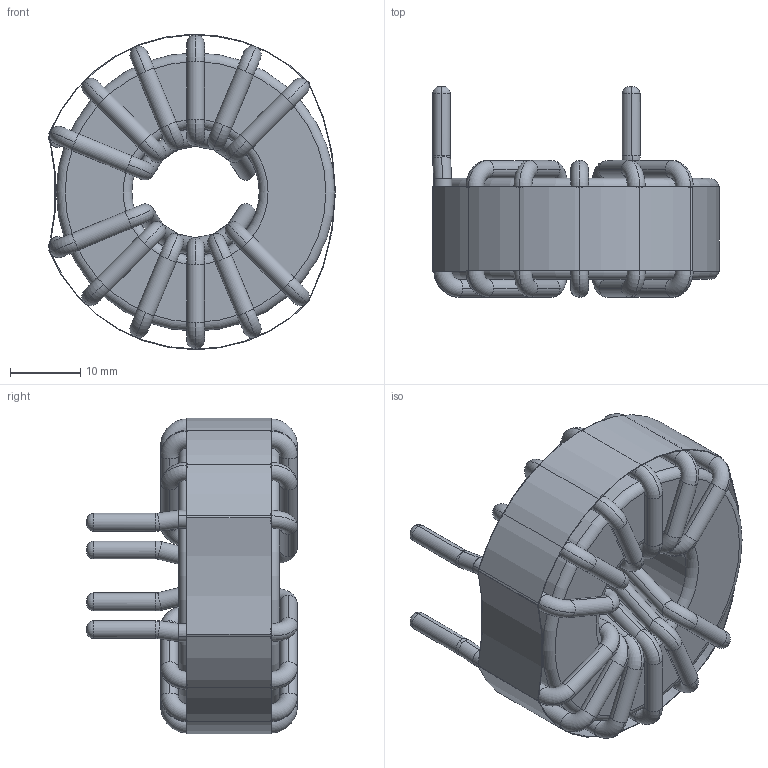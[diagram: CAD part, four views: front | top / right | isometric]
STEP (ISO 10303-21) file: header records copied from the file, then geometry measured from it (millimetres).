
FILE_DESCRIPTION (( 'STEP AP203' ), '1' );
FILE_NAME ('C-36A29-02.STEP', '2021-01-08T09:06:04', ( 'Windows User' ), ( '' ), 'SwSTEP 2.0', 'SolidWorks 2015', '' );
FILE_SCHEMA (( 'CONFIG_CONTROL_DESIGN' ));
Length unit declared in the file: inch
Products named in the file (3): C-36A29-02 - COIL; C-36A29-02 - CORE; C-36A29-02
Assembly tree (2 placements, depth 2):
  C-36A29-02
    C-36A29-02 - CORE
    C-36A29-02 - COIL
Bounding box: 40.74 x 29.91 x 44.79 mm (x, y, z)
Volume: 17462 mm3; surface area: 13258 mm2
Topology: 4 solids, 4 shells, 254 faces, 646 edges, 400 vertices
Faces by surface type: torus 112, cylinder 102, bspline 24, plane 16
Entity records: 9985 total; most frequent: CARTESIAN_POINT 3325, DIRECTION 1540, ORIENTED_EDGE 1292, AXIS2_PLACEMENT_3D 719, EDGE_CURVE 646, CIRCLE 484, VERTEX_POINT 400, EDGE_LOOP 258
